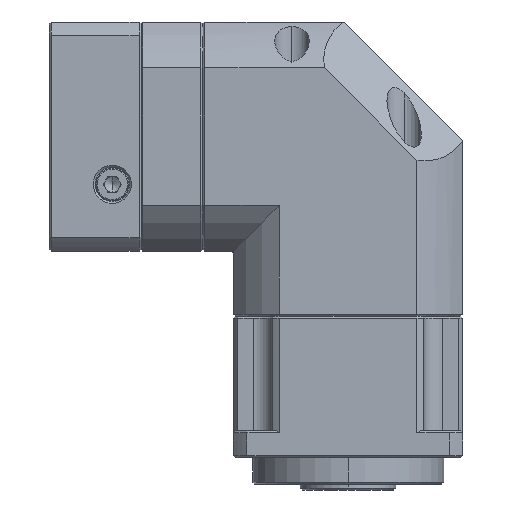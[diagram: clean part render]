
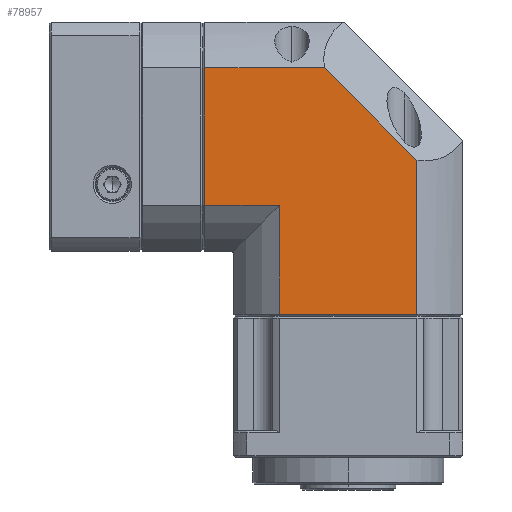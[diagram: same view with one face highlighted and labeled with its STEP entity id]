
A CAD part, left-side view. The second image highlights one B-rep face of the part: STEP entity #78957.
In plain terms, the highlighted planar face has unit normal (-1, 0, 0).
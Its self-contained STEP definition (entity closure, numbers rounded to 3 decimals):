
#3178 = CARTESIAN_POINT ( 'NONE',  ( 0., 68., 72.972 ) ) ;
#3270 = EDGE_CURVE ( 'NONE', #14320, #41219, #61684, .T. ) ;
#3504 = ORIENTED_EDGE ( 'NONE', *, *, #19699, .F. ) ;
#4158 = CARTESIAN_POINT ( 'NONE',  ( 0., 48.028, 44.5 ) ) ;
#6289 = DIRECTION ( 'NONE',  ( 0., 0., 1. ) ) ;
#6366 = DIRECTION ( 'NONE',  ( 0., 0., 1. ) ) ;
#7514 = CARTESIAN_POINT ( 'NONE',  ( 0., 30., 44.5 ) ) ;
#7681 = DIRECTION ( 'NONE',  ( 0., -0.707, -0.707 ) ) ;
#7980 = ORIENTED_EDGE ( 'NONE', *, *, #24606, .F. ) ;
#8015 = CARTESIAN_POINT ( 'NONE',  ( 0., 67.5, 72.972 ) ) ;
#13599 = CARTESIAN_POINT ( 'NONE',  ( 0., 68., 109.028 ) ) ;
#13646 = VERTEX_POINT ( 'NONE', #72847 ) ;
#14320 = VERTEX_POINT ( 'NONE', #14791 ) ;
#14791 = CARTESIAN_POINT ( 'NONE',  ( 0., 36.17, 109.028 ) ) ;
#15273 = VERTEX_POINT ( 'NONE', #8015 ) ;
#18992 = CARTESIAN_POINT ( 'NONE',  ( 0., 48.028, 72.972 ) ) ;
#19699 = EDGE_CURVE ( 'NONE', #13646, #14320, #20183, .T. ) ;
#19765 = EDGE_CURVE ( 'NONE', #55052, #15273, #68095, .T. ) ;
#20183 = LINE ( 'NONE', #13599, #30004 ) ;
#22368 = LINE ( 'NONE', #79515, #47787 ) ;
#24589 = CARTESIAN_POINT ( 'NONE',  ( 0., 11.972, 84.83 ) ) ;
#24606 = EDGE_CURVE ( 'NONE', #50593, #55052, #22368, .T. ) ;
#25141 = EDGE_LOOP ( 'NONE', ( #47718, #61389, #66240, #3504, #43688, #73268, #7980 ) ) ;
#25151 = VECTOR ( 'NONE', #63454, 1000. ) ;
#25377 = LINE ( 'NONE', #7514, #67423 ) ;
#27290 = FACE_OUTER_BOUND ( 'NONE', #25141, .T. ) ;
#27476 = VECTOR ( 'NONE', #7681, 1000. ) ;
#27759 = DIRECTION ( 'NONE',  ( 0., 1., 0. ) ) ;
#30004 = VECTOR ( 'NONE', #38726, 1000. ) ;
#30034 = CARTESIAN_POINT ( 'NONE',  ( 0., 11.972, 44.5 ) ) ;
#35689 = LINE ( 'NONE', #36724, #38586 ) ;
#36724 = CARTESIAN_POINT ( 'NONE',  ( 0., 67.5, 44. ) ) ;
#38026 = AXIS2_PLACEMENT_3D ( 'NONE', #55815, #49790, #6289 ) ;
#38586 = VECTOR ( 'NONE', #6366, 1000. ) ;
#38726 = DIRECTION ( 'NONE',  ( 0., -1., 0. ) ) ;
#41219 = VERTEX_POINT ( 'NONE', #24589 ) ;
#43688 = ORIENTED_EDGE ( 'NONE', *, *, #58373, .F. ) ;
#43766 = LINE ( 'NONE', #56939, #25151 ) ;
#47718 = ORIENTED_EDGE ( 'NONE', *, *, #63404, .T. ) ;
#47787 = VECTOR ( 'NONE', #62241, 1000. ) ;
#49790 = DIRECTION ( 'NONE',  ( 1., 0., 0. ) ) ;
#50593 = VERTEX_POINT ( 'NONE', #4158 ) ;
#55052 = VERTEX_POINT ( 'NONE', #18992 ) ;
#55815 = CARTESIAN_POINT ( 'NONE',  ( 0., 68., 44. ) ) ;
#55938 = VERTEX_POINT ( 'NONE', #30034 ) ;
#56497 = DIRECTION ( 'NONE',  ( 0., -1., 0. ) ) ;
#56939 = CARTESIAN_POINT ( 'NONE',  ( 0., 11.972, 121. ) ) ;
#57457 = CARTESIAN_POINT ( 'NONE',  ( 0., 36.17, 109.028 ) ) ;
#58373 = EDGE_CURVE ( 'NONE', #15273, #13646, #35689, .T. ) ;
#59326 = VECTOR ( 'NONE', #27759, 1000. ) ;
#61389 = ORIENTED_EDGE ( 'NONE', *, *, #80893, .F. ) ;
#61684 = LINE ( 'NONE', #57457, #27476 ) ;
#62241 = DIRECTION ( 'NONE',  ( 0., 0., 1. ) ) ;
#63404 = EDGE_CURVE ( 'NONE', #50593, #55938, #25377, .T. ) ;
#63454 = DIRECTION ( 'NONE',  ( 0., 0., -1. ) ) ;
#66240 = ORIENTED_EDGE ( 'NONE', *, *, #3270, .F. ) ;
#67423 = VECTOR ( 'NONE', #56497, 1000. ) ;
#68095 = LINE ( 'NONE', #3178, #59326 ) ;
#72847 = CARTESIAN_POINT ( 'NONE',  ( 0., 67.5, 109.028 ) ) ;
#73034 = PLANE ( 'NONE',  #38026 ) ;
#73268 = ORIENTED_EDGE ( 'NONE', *, *, #19765, .F. ) ;
#78957 = ADVANCED_FACE ( 'NONE', ( #27290 ), #73034, .F. ) ;
#79515 = CARTESIAN_POINT ( 'NONE',  ( 0., 48.028, 44. ) ) ;
#80893 = EDGE_CURVE ( 'NONE', #41219, #55938, #43766, .T. ) ;
